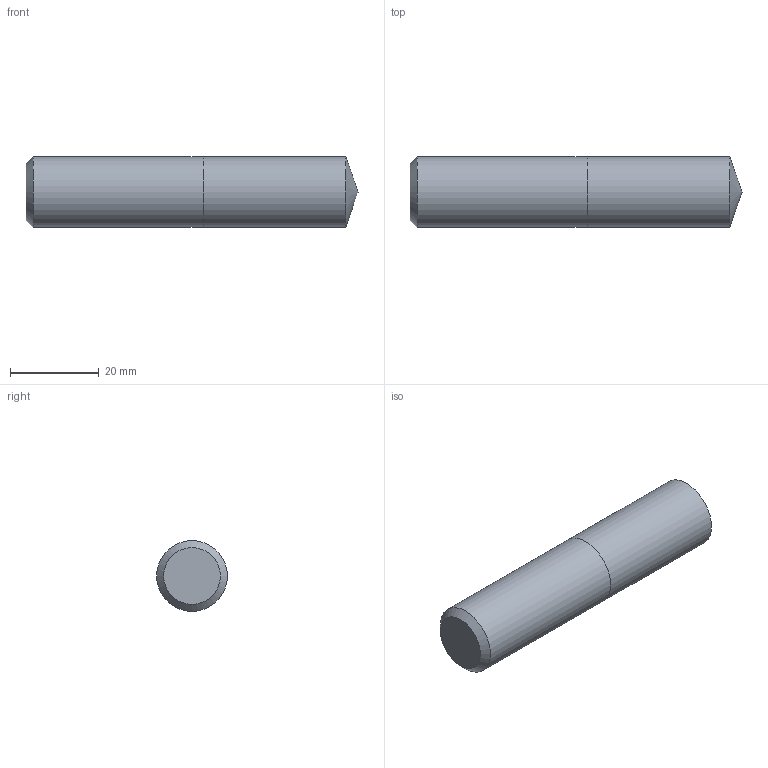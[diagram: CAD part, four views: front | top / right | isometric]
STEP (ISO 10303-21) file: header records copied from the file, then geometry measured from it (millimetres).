
FILE_DESCRIPTION (( 'STEP AP214' ), '1' );
FILE_NAME ('03-2230.STEP', '2022-02-07T07:06:28', ( 'USER' ), ( '' ), 'SwSTEP 2.0', 'SolidWorks 2018', '' );
FILE_SCHEMA (( 'AUTOMOTIVE_DESIGN' ));
Length unit declared in the file: millimetre
Products named in the file (1): 03-2230
Bounding box: 75 x 16 x 16 mm (x, y, z)
Volume: 14650.4 mm3; surface area: 4396.8 mm2
Topology: 2 solids, 2 shells, 7 faces, 11 edges, 7 vertices
Faces by surface type: plane 3, cylinder 2, cone 2
Full cylindrical faces by diameter (mm): 16 x2
Entity records: 189 total; most frequent: DIRECTION 26, CARTESIAN_POINT 18, AXIS2_PLACEMENT_3D 13, ORIENTED_EDGE 10, EDGE_LOOP 10, FACE_OUTER_BOUND 9, ADVANCED_FACE 7, UNCERTAINTY_MEASURE_WITH_UNIT 6
